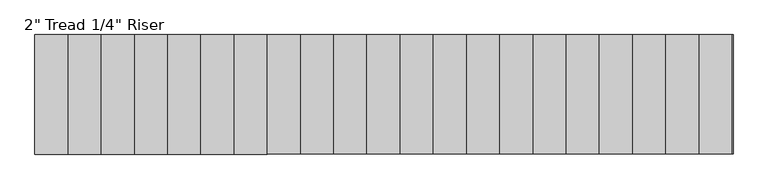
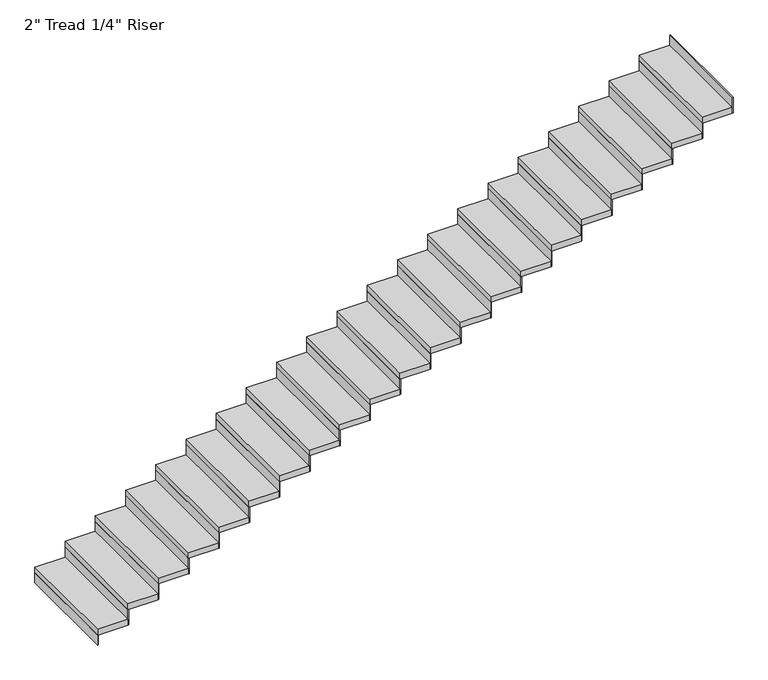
"""IFC4 building model written with IfcOpenShell, lengths in millimetres: stair flight geometry."""

from ifc_helpers import new_model, si_unit, frame, origin, origin_with_axes, place, context, project, spatial, polyline, outline, extrude, source, transform, mapped, element, save


def stair_flight_25ca64cd(model_context):
    return source(origin(), model_context, "Body", "SweptSolid", [
        extrude(outline(polyline([(10185.0667764, 34007.0395941), (10178.7167764, 34007.0395941), (10178.7167764, 34921.4395941), (10185.0667764, 34921.4395941), (10185.0667764, 34007.0395941)])), origin_with_axes(), (0.0, 0.0, 1.0), 87.7454545),
        extrude(outline(polyline([(10432.7167764, 34921.4395941), (10432.7167764, 34007.0395941), (10178.7167764, 34007.0395941), (10178.7167764, 34921.4395941), (10432.7167764, 34921.4395941)])), frame((0.0, 0.0, 87.7454545), z_axis=(0.0, 0.0, 1.0), x_axis=(1.0, 0.0, 0.0)), (0.0, 0.0, 1.0), 50.8),
        extrude(outline(polyline([(10439.0667764, 34007.0395941), (10432.7167764, 34007.0395941), (10432.7167764, 34921.4395941), (10439.0667764, 34921.4395941), (10439.0667764, 34007.0395941)])), frame((0.0, 0.0, 87.7454545), z_axis=(0.0, 0.0, 1.0), x_axis=(1.0, 0.0, 0.0)), (0.0, 0.0, 1.0), 138.5454545),
        extrude(outline(polyline([(10686.7167764, 34921.4395941), (10686.7167764, 34007.0395941), (10432.7167764, 34007.0395941), (10432.7167764, 34921.4395941), (10686.7167764, 34921.4395941)])), frame((0.0, 0.0, 226.2909091), z_axis=(0.0, 0.0, 1.0), x_axis=(1.0, 0.0, 0.0)), (0.0, 0.0, 1.0), 50.8),
        extrude(outline(polyline([(10693.0667764, 34007.0395941), (10686.7167764, 34007.0395941), (10686.7167764, 34921.4395941), (10693.0667764, 34921.4395941), (10693.0667764, 34007.0395941)])), frame((0.0, 0.0, 226.2909091), z_axis=(0.0, 0.0, 1.0), x_axis=(1.0, 0.0, 0.0)), (0.0, 0.0, 1.0), 138.5454545),
        extrude(outline(polyline([(10940.7167764, 34921.4395941), (10940.7167764, 34007.0395941), (10686.7167764, 34007.0395941), (10686.7167764, 34921.4395941), (10940.7167764, 34921.4395941)])), frame((0.0, 0.0, 364.8363636), z_axis=(0.0, 0.0, 1.0), x_axis=(1.0, 0.0, 0.0)), (0.0, 0.0, 1.0), 50.8),
        extrude(outline(polyline([(10947.0667764, 34007.0395941), (10940.7167764, 34007.0395941), (10940.7167764, 34921.4395941), (10947.0667764, 34921.4395941), (10947.0667764, 34007.0395941)])), frame((0.0, 0.0, 364.8363636), z_axis=(0.0, 0.0, 1.0), x_axis=(1.0, 0.0, 0.0)), (0.0, 0.0, 1.0), 138.5454545),
        extrude(outline(polyline([(11194.7167764, 34921.4395941), (11194.7167764, 34007.0395941), (10940.7167764, 34007.0395941), (10940.7167764, 34921.4395941), (11194.7167764, 34921.4395941)])), frame((0.0, 0.0, 503.3818182), z_axis=(0.0, 0.0, 1.0), x_axis=(1.0, 0.0, 0.0)), (0.0, 0.0, 1.0), 50.8),
        extrude(outline(polyline([(11201.0667764, 34007.0395941), (11194.7167764, 34007.0395941), (11194.7167764, 34921.4395941), (11201.0667764, 34921.4395941), (11201.0667764, 34007.0395941)])), frame((0.0, 0.0, 503.3818182), z_axis=(0.0, 0.0, 1.0), x_axis=(1.0, 0.0, 0.0)), (0.0, 0.0, 1.0), 138.5454545),
        extrude(outline(polyline([(11448.7167764, 34921.4395941), (11448.7167764, 34007.0395941), (11194.7167764, 34007.0395941), (11194.7167764, 34921.4395941), (11448.7167764, 34921.4395941)])), frame((0.0, 0.0, 641.9272727), z_axis=(0.0, 0.0, 1.0), x_axis=(1.0, 0.0, 0.0)), (0.0, 0.0, 1.0), 50.8),
        extrude(outline(polyline([(11455.0667764, 34007.0395941), (11448.7167764, 34007.0395941), (11448.7167764, 34921.4395941), (11455.0667764, 34921.4395941), (11455.0667764, 34007.0395941)])), frame((0.0, 0.0, 641.9272727), z_axis=(0.0, 0.0, 1.0), x_axis=(1.0, 0.0, 0.0)), (0.0, 0.0, 1.0), 138.5454545),
        extrude(outline(polyline([(11702.7167764, 34921.4395941), (11702.7167764, 34007.0395941), (11448.7167764, 34007.0395941), (11448.7167764, 34921.4395941), (11702.7167764, 34921.4395941)])), frame((0.0, 0.0, 780.4727273), z_axis=(0.0, 0.0, 1.0), x_axis=(1.0, 0.0, 0.0)), (0.0, 0.0, 1.0), 50.8),
        extrude(outline(polyline([(11709.0667764, 34007.0395941), (11702.7167764, 34007.0395941), (11702.7167764, 34921.4395941), (11709.0667764, 34921.4395941), (11709.0667764, 34007.0395941)])), frame((0.0, 0.0, 780.4727273), z_axis=(0.0, 0.0, 1.0), x_axis=(1.0, 0.0, 0.0)), (0.0, 0.0, 1.0), 138.5454545),
        extrude(outline(polyline([(11956.7167764, 34921.4395941), (11956.7167764, 34007.0395941), (11702.7167764, 34007.0395941), (11702.7167764, 34921.4395941), (11956.7167764, 34921.4395941)])), frame((0.0, 0.0, 919.0181818), z_axis=(0.0, 0.0, 1.0), x_axis=(1.0, 0.0, 0.0)), (0.0, 0.0, 1.0), 50.8),
        extrude(outline(polyline([(11963.0667764, 34007.0395941), (11956.7167764, 34007.0395941), (11956.7167764, 34921.4395941), (11963.0667764, 34921.4395941), (11963.0667764, 34007.0395941)])), frame((0.0, 0.0, 919.0181818), z_axis=(0.0, 0.0, 1.0), x_axis=(1.0, 0.0, 0.0)), (0.0, 0.0, 1.0), 138.5454545),
        extrude(outline(polyline([(12210.7167764, 34921.4395941), (12210.7167764, 34007.0395941), (11956.7167764, 34007.0395941), (11956.7167764, 34921.4395941), (12210.7167764, 34921.4395941)])), frame((0.0, 0.0, 1057.5636364), z_axis=(0.0, 0.0, 1.0), x_axis=(1.0, 0.0, 0.0)), (0.0, 0.0, 1.0), 50.8),
        extrude(outline(polyline([(12217.0667764, 34007.0395941), (12210.7167764, 34007.0395941), (12210.7167764, 34921.4395941), (12217.0667764, 34921.4395941), (12217.0667764, 34007.0395941)])), frame((0.0, 0.0, 1057.5636364), z_axis=(0.0, 0.0, 1.0), x_axis=(1.0, 0.0, 0.0)), (0.0, 0.0, 1.0), 138.5454545),
        extrude(outline(polyline([(12464.7167764, 34921.4395941), (12464.7167764, 34007.0395941), (12210.7167764, 34007.0395941), (12210.7167764, 34921.4395941), (12464.7167764, 34921.4395941)])), frame((0.0, 0.0, 1196.1090909), z_axis=(0.0, 0.0, 1.0), x_axis=(1.0, 0.0, 0.0)), (0.0, 0.0, 1.0), 50.8),
        extrude(outline(polyline([(12471.0667764, 34007.0395941), (12464.7167764, 34007.0395941), (12464.7167764, 34921.4395941), (12471.0667764, 34921.4395941), (12471.0667764, 34007.0395941)])), frame((0.0, 0.0, 1196.1090909), z_axis=(0.0, 0.0, 1.0), x_axis=(1.0, 0.0, 0.0)), (0.0, 0.0, 1.0), 138.5454545),
        extrude(outline(polyline([(12718.7167764, 34921.4395941), (12718.7167764, 34007.0395941), (12464.7167764, 34007.0395941), (12464.7167764, 34921.4395941), (12718.7167764, 34921.4395941)])), frame((0.0, 0.0, 1334.6545455), z_axis=(0.0, 0.0, 1.0), x_axis=(1.0, 0.0, 0.0)), (0.0, 0.0, 1.0), 50.8),
        extrude(outline(polyline([(12725.0667764, 34007.0395941), (12718.7167764, 34007.0395941), (12718.7167764, 34921.4395941), (12725.0667764, 34921.4395941), (12725.0667764, 34007.0395941)])), frame((0.0, 0.0, 1334.6545455), z_axis=(0.0, 0.0, 1.0), x_axis=(1.0, 0.0, 0.0)), (0.0, 0.0, 1.0), 138.5454545),
        extrude(outline(polyline([(12972.7167764, 34921.4395941), (12972.7167764, 34007.0395941), (12718.7167764, 34007.0395941), (12718.7167764, 34921.4395941), (12972.7167764, 34921.4395941)])), frame((0.0, 0.0, 1473.2), z_axis=(0.0, 0.0, 1.0), x_axis=(1.0, 0.0, 0.0)), (0.0, 0.0, 1.0), 50.8),
        extrude(outline(polyline([(12979.0667764, 34007.0395941), (12972.7167764, 34007.0395941), (12972.7167764, 34921.4395941), (12979.0667764, 34921.4395941), (12979.0667764, 34007.0395941)])), frame((0.0, 0.0, 1473.2), z_axis=(0.0, 0.0, 1.0), x_axis=(1.0, 0.0, 0.0)), (0.0, 0.0, 1.0), 138.5454545),
        extrude(outline(polyline([(13226.7167764, 34921.4395941), (13226.7167764, 34007.0395941), (12972.7167764, 34007.0395941), (12972.7167764, 34921.4395941), (13226.7167764, 34921.4395941)])), frame((0.0, 0.0, 1611.7454545), z_axis=(0.0, 0.0, 1.0), x_axis=(1.0, 0.0, 0.0)), (0.0, 0.0, 1.0), 50.8),
        extrude(outline(polyline([(13233.0667764, 34007.0395941), (13226.7167764, 34007.0395941), (13226.7167764, 34921.4395941), (13233.0667764, 34921.4395941), (13233.0667764, 34007.0395941)])), frame((0.0, 0.0, 1611.7454545), z_axis=(0.0, 0.0, 1.0), x_axis=(1.0, 0.0, 0.0)), (0.0, 0.0, 1.0), 138.5454545),
        extrude(outline(polyline([(13480.7167764, 34921.4395941), (13480.7167764, 34007.0395941), (13226.7167764, 34007.0395941), (13226.7167764, 34921.4395941), (13480.7167764, 34921.4395941)])), frame((0.0, 0.0, 1750.2909091), z_axis=(0.0, 0.0, 1.0), x_axis=(1.0, 0.0, 0.0)), (0.0, 0.0, 1.0), 50.8),
        extrude(outline(polyline([(13487.0667764, 34007.0395941), (13480.7167764, 34007.0395941), (13480.7167764, 34921.4395941), (13487.0667764, 34921.4395941), (13487.0667764, 34007.0395941)])), frame((0.0, 0.0, 1750.2909091), z_axis=(0.0, 0.0, 1.0), x_axis=(1.0, 0.0, 0.0)), (0.0, 0.0, 1.0), 138.5454545),
        extrude(outline(polyline([(13734.7167764, 34921.4395941), (13734.7167764, 34007.0395941), (13480.7167764, 34007.0395941), (13480.7167764, 34921.4395941), (13734.7167764, 34921.4395941)])), frame((0.0, 0.0, 1888.8363636), z_axis=(0.0, 0.0, 1.0), x_axis=(1.0, 0.0, 0.0)), (0.0, 0.0, 1.0), 50.8),
        extrude(outline(polyline([(13741.0667764, 34007.0395941), (13734.7167764, 34007.0395941), (13734.7167764, 34921.4395941), (13741.0667764, 34921.4395941), (13741.0667764, 34007.0395941)])), frame((0.0, 0.0, 1888.8363636), z_axis=(0.0, 0.0, 1.0), x_axis=(1.0, 0.0, 0.0)), (0.0, 0.0, 1.0), 138.5454545),
        extrude(outline(polyline([(13988.7167764, 34921.4395941), (13988.7167764, 34007.0395941), (13734.7167764, 34007.0395941), (13734.7167764, 34921.4395941), (13988.7167764, 34921.4395941)])), frame((0.0, 0.0, 2027.3818182), z_axis=(0.0, 0.0, 1.0), x_axis=(1.0, 0.0, 0.0)), (0.0, 0.0, 1.0), 50.8),
        extrude(outline(polyline([(13995.0667764, 34007.0395941), (13988.7167764, 34007.0395941), (13988.7167764, 34921.4395941), (13995.0667764, 34921.4395941), (13995.0667764, 34007.0395941)])), frame((0.0, 0.0, 2027.3818182), z_axis=(0.0, 0.0, 1.0), x_axis=(1.0, 0.0, 0.0)), (0.0, 0.0, 1.0), 138.5454545),
        extrude(outline(polyline([(14242.7167764, 34921.4395941), (14242.7167764, 34007.0395941), (13988.7167764, 34007.0395941), (13988.7167764, 34921.4395941), (14242.7167764, 34921.4395941)])), frame((0.0, 0.0, 2165.9272727), z_axis=(0.0, 0.0, 1.0), x_axis=(1.0, 0.0, 0.0)), (0.0, 0.0, 1.0), 50.8),
        extrude(outline(polyline([(14249.0667764, 34007.0395941), (14242.7167764, 34007.0395941), (14242.7167764, 34921.4395941), (14249.0667764, 34921.4395941), (14249.0667764, 34007.0395941)])), frame((0.0, 0.0, 2165.9272727), z_axis=(0.0, 0.0, 1.0), x_axis=(1.0, 0.0, 0.0)), (0.0, 0.0, 1.0), 138.5454545),
        extrude(outline(polyline([(14496.7167764, 34921.4395941), (14496.7167764, 34007.0395941), (14242.7167764, 34007.0395941), (14242.7167764, 34921.4395941), (14496.7167764, 34921.4395941)])), frame((0.0, 0.0, 2304.4727273), z_axis=(0.0, 0.0, 1.0), x_axis=(1.0, 0.0, 0.0)), (0.0, 0.0, 1.0), 50.8),
        extrude(outline(polyline([(14503.0667764, 34007.0395941), (14496.7167764, 34007.0395941), (14496.7167764, 34921.4395941), (14503.0667764, 34921.4395941), (14503.0667764, 34007.0395941)])), frame((0.0, 0.0, 2304.4727273), z_axis=(0.0, 0.0, 1.0), x_axis=(1.0, 0.0, 0.0)), (0.0, 0.0, 1.0), 138.5454545),
        extrude(outline(polyline([(14750.7167764, 34921.4395941), (14750.7167764, 34007.0395941), (14496.7167764, 34007.0395941), (14496.7167764, 34921.4395941), (14750.7167764, 34921.4395941)])), frame((0.0, 0.0, 2443.0181818), z_axis=(0.0, 0.0, 1.0), x_axis=(1.0, 0.0, 0.0)), (0.0, 0.0, 1.0), 50.8),
        extrude(outline(polyline([(14757.0667764, 34007.0395941), (14750.7167764, 34007.0395941), (14750.7167764, 34921.4395941), (14757.0667764, 34921.4395941), (14757.0667764, 34007.0395941)])), frame((0.0, 0.0, 2443.0181818), z_axis=(0.0, 0.0, 1.0), x_axis=(1.0, 0.0, 0.0)), (0.0, 0.0, 1.0), 138.5454545),
        extrude(outline(polyline([(15004.7167764, 34921.4395941), (15004.7167764, 34007.0395941), (14750.7167764, 34007.0395941), (14750.7167764, 34921.4395941), (15004.7167764, 34921.4395941)])), frame((0.0, 0.0, 2581.5636364), z_axis=(0.0, 0.0, 1.0), x_axis=(1.0, 0.0, 0.0)), (0.0, 0.0, 1.0), 50.8),
        extrude(outline(polyline([(15011.0667764, 34007.0395941), (15004.7167764, 34007.0395941), (15004.7167764, 34921.4395941), (15011.0667764, 34921.4395941), (15011.0667764, 34007.0395941)])), frame((0.0, 0.0, 2581.5636364), z_axis=(0.0, 0.0, 1.0), x_axis=(1.0, 0.0, 0.0)), (0.0, 0.0, 1.0), 138.5454545),
        extrude(outline(polyline([(15258.7167764, 34921.4395941), (15258.7167764, 34007.0395941), (15004.7167764, 34007.0395941), (15004.7167764, 34921.4395941), (15258.7167764, 34921.4395941)])), frame((0.0, 0.0, 2720.1090909), z_axis=(0.0, 0.0, 1.0), x_axis=(1.0, 0.0, 0.0)), (0.0, 0.0, 1.0), 50.8),
        extrude(outline(polyline([(15265.0667764, 34007.0395941), (15258.7167764, 34007.0395941), (15258.7167764, 34921.4395941), (15265.0667764, 34921.4395941), (15265.0667764, 34007.0395941)])), frame((0.0, 0.0, 2720.1090909), z_axis=(0.0, 0.0, 1.0), x_axis=(1.0, 0.0, 0.0)), (0.0, 0.0, 1.0), 138.5454545),
        extrude(outline(polyline([(15519.0667764, 34007.0395941), (15512.7167764, 34007.0395941), (15512.7167764, 34921.4395941), (15519.0667764, 34921.4395941), (15519.0667764, 34007.0395941)])), frame((0.0, 0.0, 2858.6545455), z_axis=(0.0, 0.0, 1.0), x_axis=(1.0, 0.0, 0.0)), (0.0, 0.0, 1.0), 138.5454545),
        extrude(outline(polyline([(15512.7167764, 34921.4395941), (15512.7167764, 34007.0395941), (15258.7167764, 34007.0395941), (15258.7167764, 34921.4395941), (15512.7167764, 34921.4395941)])), frame((0.0, 0.0, 2858.6545455), z_axis=(0.0, 0.0, 1.0), x_axis=(1.0, 0.0, 0.0)), (0.0, 0.0, 1.0), 50.8),
    ])


if __name__ == "__main__":
    model = new_model("IFC4")
    model_context = context("Model", 3, world=origin())
    ifc_project = project(units=[si_unit("LENGTHUNIT", "METRE", prefix="MILLI")], contexts=[model_context])
    site = spatial("IfcSite", under=ifc_project)
    building = spatial("IfcBuilding", under=site)
    placement = place(None, origin())
    stair_flight_shape = stair_flight_25ca64cd(model_context)
    element("IfcStairFlight", 1, ObjectType="2\" Tread 1/4\" Riser", at=placement, inside=building, context=model_context, shape_type="MappedRepresentation", body=[
        mapped(stair_flight_shape, transform((0.0, 0.0, 0.0), x_axis=(1.0, 0.0, 0.0), y_axis=(0.0, 1.0, 0.0), z_axis=(0.0, 0.0, 1.0))),
    ])
    save(model, "model.ifc")
